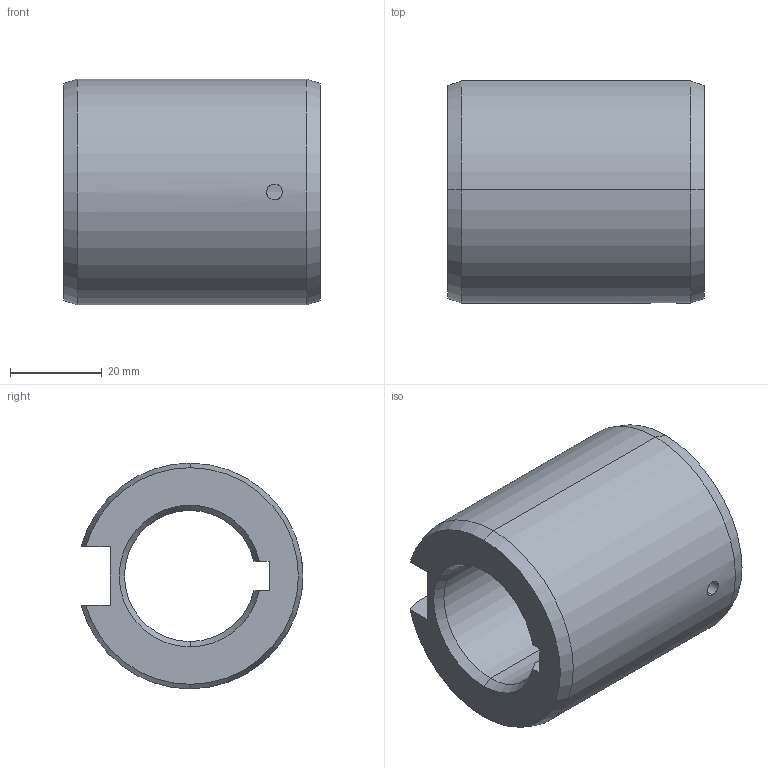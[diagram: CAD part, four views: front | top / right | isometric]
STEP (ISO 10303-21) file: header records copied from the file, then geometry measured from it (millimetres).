
FILE_DESCRIPTION (( 'STEP AP203' ), '1' );
FILE_NAME ('KBSH066P18.STEP', '2023-08-01T05:21:45', ( '' ), ( '' ), 'SwSTEP 2.0', 'SolidWorks 2017', '' );
FILE_SCHEMA (( 'CONFIG_CONTROL_DESIGN' ));
Length unit declared in the file: millimetre
Products named in the file (1): KBSH066P18
Bounding box: 56 x 48.38 x 49.21 mm (x, y, z)
Volume: 63919.1 mm3; surface area: 16728.5 mm2
Topology: 1 solids, 1 shells, 28 faces, 70 edges, 44 vertices
Faces by surface type: cone 12, cylinder 8, plane 8
Entity records: 979 total; most frequent: CARTESIAN_POINT 221, DIRECTION 144, ORIENTED_EDGE 140, EDGE_CURVE 70, AXIS2_PLACEMENT_3D 55, VERTEX_POINT 44, LINE 34, VECTOR 34
